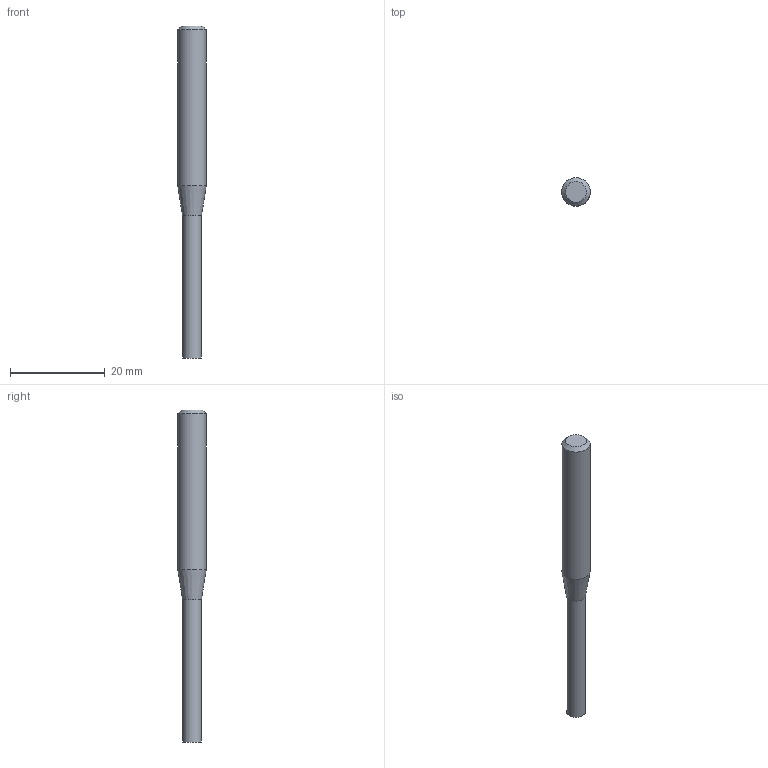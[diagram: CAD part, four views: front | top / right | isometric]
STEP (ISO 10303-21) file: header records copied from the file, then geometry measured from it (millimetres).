
FILE_DESCRIPTION((''),'2;1');
FILE_NAME('C:\Users\nsx150\Desktop\RSE230_20210427\01-00644-04004 RSE230 D4X30.step','2021-05-07T14:54:09',(''),(''),'STEP Write','Mastercam 2021 ... CNC Software, Inc.','');
FILE_SCHEMA(('AUTOMOTIVE_DESIGN'));
Length unit declared in the file: millimetre
Products named in the file (1): None
Bounding box: 6 x 6 x 70 mm (x, y, z)
Volume: 1449.6 mm3; surface area: 1168.7 mm2
Topology: 2 solids, 2 shells, 8 faces, 10 edges, 6 vertices
Faces by surface type: plane 4, cylinder 2, cone 2
Full cylindrical faces by diameter (mm): 4 x1, 6 x1
Entity records: 190 total; most frequent: DIRECTION 32, CARTESIAN_POINT 22, AXIS2_PLACEMENT_3D 16, ORIENTED_EDGE 12, EDGE_LOOP 12, STYLED_ITEM 11, ADVANCED_FACE 8, VERTEX_POINT 6
